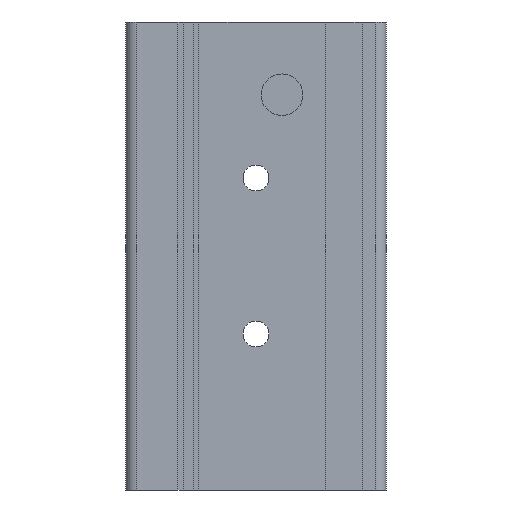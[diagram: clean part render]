
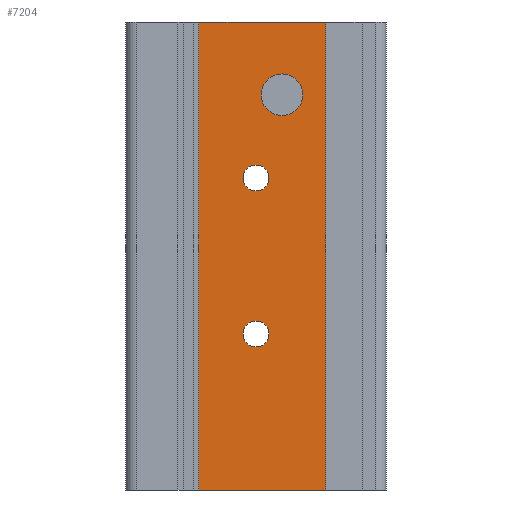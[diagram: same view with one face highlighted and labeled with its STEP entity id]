
A CAD part, left-side view. The second image highlights one B-rep face of the part: STEP entity #7204.
In plain terms, the highlighted planar face has unit normal (-1, 0, 0).
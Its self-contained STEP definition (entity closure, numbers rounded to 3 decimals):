
#2 = DIRECTION ( 'NONE',  ( 0., 1., 0. ) ) ;
#18 = VECTOR ( 'NONE', #1339, 1000. ) ;
#42 = CARTESIAN_POINT ( 'NONE',  ( -35., 0., -22.5 ) ) ;
#185 = EDGE_CURVE ( 'NONE', #6342, #2059, #1706, .T. ) ;
#214 = ORIENTED_EDGE ( 'NONE', *, *, #5052, .F. ) ;
#254 = EDGE_CURVE ( 'NONE', #4952, #4107, #4077, .T. ) ;
#275 = CARTESIAN_POINT ( 'NONE',  ( -35., 0., 22.5 ) ) ;
#314 = DIRECTION ( 'NONE',  ( 0., 0., 1. ) ) ;
#341 = PLANE ( 'NONE',  #490 ) ;
#421 = VERTEX_POINT ( 'NONE', #1626 ) ;
#490 = AXIS2_PLACEMENT_3D ( 'NONE', #275, #871, #921 ) ;
#502 = FACE_BOUND ( 'NONE', #919, .T. ) ;
#574 = CARTESIAN_POINT ( 'NONE',  ( -35., 5.8, -22.5 ) ) ;
#660 = CARTESIAN_POINT ( 'NONE',  ( -35., 18., 22.5 ) ) ;
#741 = ORIENTED_EDGE ( 'NONE', *, *, #2572, .T. ) ;
#753 = ORIENTED_EDGE ( 'NONE', *, *, #2165, .F. ) ;
#826 = AXIS2_PLACEMENT_3D ( 'NONE', #1372, #7084, #314 ) ;
#871 = DIRECTION ( 'NONE',  ( -1., 0., 0. ) ) ;
#919 = EDGE_LOOP ( 'NONE', ( #5590, #5244 ) ) ;
#921 = DIRECTION ( 'NONE',  ( 0., 0., 1. ) ) ;
#933 = VERTEX_POINT ( 'NONE', #660 ) ;
#1134 = FACE_OUTER_BOUND ( 'NONE', #3604, .T. ) ;
#1280 = CARTESIAN_POINT ( 'NONE',  ( -35., 18., -22.5 ) ) ;
#1314 = CARTESIAN_POINT ( 'NONE',  ( -35., 10., 15.5 ) ) ;
#1316 = CIRCLE ( 'NONE', #1499, 1.25 ) ;
#1339 = DIRECTION ( 'NONE',  ( 0., 1., 0. ) ) ;
#1372 = CARTESIAN_POINT ( 'NONE',  ( -35., 12.5, 7.5 ) ) ;
#1492 = DIRECTION ( 'NONE',  ( 0., 0., 1. ) ) ;
#1499 = AXIS2_PLACEMENT_3D ( 'NONE', #2758, #3871, #1492 ) ;
#1554 = ORIENTED_EDGE ( 'NONE', *, *, #5420, .F. ) ;
#1626 = CARTESIAN_POINT ( 'NONE',  ( -35., 12.5, -6.25 ) ) ;
#1631 = EDGE_CURVE ( 'NONE', #4107, #4952, #5307, .T. ) ;
#1704 = AXIS2_PLACEMENT_3D ( 'NONE', #1314, #3564, #3611 ) ;
#1706 = LINE ( 'NONE', #42, #18 ) ;
#1716 = EDGE_CURVE ( 'NONE', #933, #2059, #5318, .T. ) ;
#1724 = AXIS2_PLACEMENT_3D ( 'NONE', #5151, #4679, #6395 ) ;
#1874 = VERTEX_POINT ( 'NONE', #4506 ) ;
#1898 = AXIS2_PLACEMENT_3D ( 'NONE', #5480, #3730, #2567 ) ;
#1953 = DIRECTION ( 'NONE',  ( -1., 0., 0. ) ) ;
#2059 = VERTEX_POINT ( 'NONE', #1280 ) ;
#2165 = EDGE_CURVE ( 'NONE', #3708, #421, #4836, .T. ) ;
#2257 = VERTEX_POINT ( 'NONE', #4397 ) ;
#2351 = CARTESIAN_POINT ( 'NONE',  ( -35., 0., 22.5 ) ) ;
#2489 = FACE_BOUND ( 'NONE', #4776, .T. ) ;
#2533 = EDGE_LOOP ( 'NONE', ( #6671, #214 ) ) ;
#2567 = DIRECTION ( 'NONE',  ( 0., 0., 1. ) ) ;
#2572 = EDGE_CURVE ( 'NONE', #1874, #933, #6883, .T. ) ;
#2666 = CARTESIAN_POINT ( 'NONE',  ( -35., 12.5, 8.75 ) ) ;
#2744 = ORIENTED_EDGE ( 'NONE', *, *, #185, .F. ) ;
#2758 = CARTESIAN_POINT ( 'NONE',  ( -35., 12.5, 7.5 ) ) ;
#3038 = DIRECTION ( 'NONE',  ( 0., 0., 1. ) ) ;
#3564 = DIRECTION ( 'NONE',  ( -1., 0., 0. ) ) ;
#3604 = EDGE_LOOP ( 'NONE', ( #2744, #5421, #741, #4583 ) ) ;
#3609 = CIRCLE ( 'NONE', #1724, 1.25 ) ;
#3611 = DIRECTION ( 'NONE',  ( 0., 0., 1. ) ) ;
#3642 = CARTESIAN_POINT ( 'NONE',  ( -35., 10., 17.5 ) ) ;
#3708 = VERTEX_POINT ( 'NONE', #6936 ) ;
#3730 = DIRECTION ( 'NONE',  ( -1., 0., 0. ) ) ;
#3854 = CARTESIAN_POINT ( 'NONE',  ( -35., 5.8, 22.5 ) ) ;
#3871 = DIRECTION ( 'NONE',  ( -1., 0., 0. ) ) ;
#4035 = VECTOR ( 'NONE', #2, 1000. ) ;
#4077 = CIRCLE ( 'NONE', #1704, 2. ) ;
#4095 = AXIS2_PLACEMENT_3D ( 'NONE', #5429, #1953, #3038 ) ;
#4107 = VERTEX_POINT ( 'NONE', #5459 ) ;
#4242 = VECTOR ( 'NONE', #6123, 1000. ) ;
#4397 = CARTESIAN_POINT ( 'NONE',  ( -35., 12.5, 6.25 ) ) ;
#4506 = CARTESIAN_POINT ( 'NONE',  ( -35., 5.8, 22.5 ) ) ;
#4583 = ORIENTED_EDGE ( 'NONE', *, *, #1716, .T. ) ;
#4631 = CIRCLE ( 'NONE', #826, 1.25 ) ;
#4679 = DIRECTION ( 'NONE',  ( -1., 0., 0. ) ) ;
#4776 = EDGE_LOOP ( 'NONE', ( #1554, #753 ) ) ;
#4836 = CIRCLE ( 'NONE', #1898, 1.25 ) ;
#4943 = DIRECTION ( 'NONE',  ( 0., 0., -1. ) ) ;
#4952 = VERTEX_POINT ( 'NONE', #3642 ) ;
#5052 = EDGE_CURVE ( 'NONE', #2257, #6684, #4631, .T. ) ;
#5151 = CARTESIAN_POINT ( 'NONE',  ( -35., 12.5, -7.5 ) ) ;
#5244 = ORIENTED_EDGE ( 'NONE', *, *, #254, .F. ) ;
#5307 = CIRCLE ( 'NONE', #4095, 2. ) ;
#5318 = LINE ( 'NONE', #6053, #4242 ) ;
#5420 = EDGE_CURVE ( 'NONE', #421, #3708, #3609, .T. ) ;
#5421 = ORIENTED_EDGE ( 'NONE', *, *, #5855, .F. ) ;
#5429 = CARTESIAN_POINT ( 'NONE',  ( -35., 10., 15.5 ) ) ;
#5459 = CARTESIAN_POINT ( 'NONE',  ( -35., 10., 13.5 ) ) ;
#5480 = CARTESIAN_POINT ( 'NONE',  ( -35., 12.5, -7.5 ) ) ;
#5590 = ORIENTED_EDGE ( 'NONE', *, *, #1631, .F. ) ;
#5855 = EDGE_CURVE ( 'NONE', #1874, #6342, #6815, .T. ) ;
#6053 = CARTESIAN_POINT ( 'NONE',  ( -35., 18., 22.5 ) ) ;
#6123 = DIRECTION ( 'NONE',  ( 0., 0., -1. ) ) ;
#6342 = VERTEX_POINT ( 'NONE', #574 ) ;
#6395 = DIRECTION ( 'NONE',  ( 0., 0., 1. ) ) ;
#6475 = VECTOR ( 'NONE', #4943, 1000. ) ;
#6671 = ORIENTED_EDGE ( 'NONE', *, *, #7258, .F. ) ;
#6684 = VERTEX_POINT ( 'NONE', #2666 ) ;
#6708 = FACE_BOUND ( 'NONE', #2533, .T. ) ;
#6815 = LINE ( 'NONE', #3854, #6475 ) ;
#6883 = LINE ( 'NONE', #2351, #4035 ) ;
#6936 = CARTESIAN_POINT ( 'NONE',  ( -35., 12.5, -8.75 ) ) ;
#7084 = DIRECTION ( 'NONE',  ( -1., 0., 0. ) ) ;
#7204 = ADVANCED_FACE ( 'NONE', ( #502, #2489, #6708, #1134 ), #341, .T. ) ;
#7258 = EDGE_CURVE ( 'NONE', #6684, #2257, #1316, .T. ) ;
